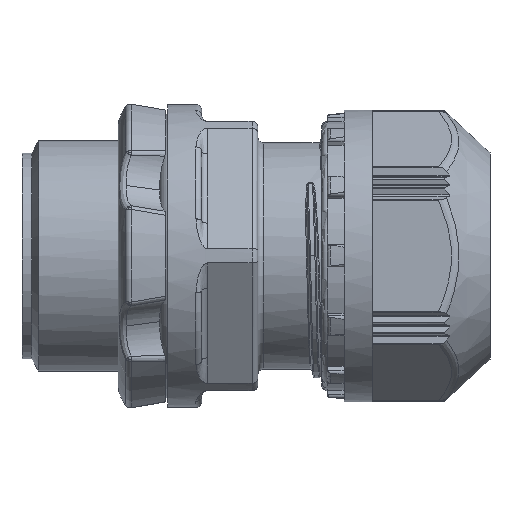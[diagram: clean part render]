
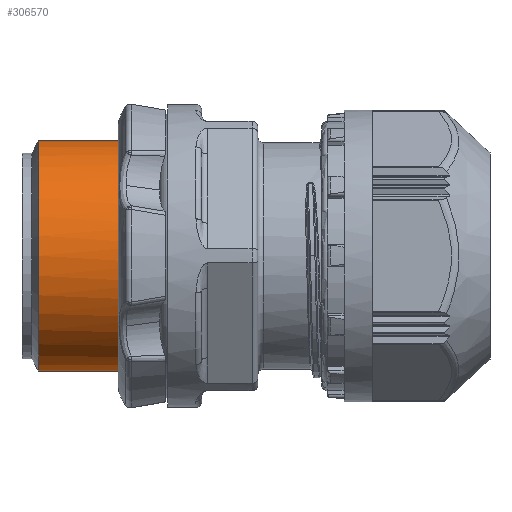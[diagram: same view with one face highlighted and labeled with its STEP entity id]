
A CAD part, top view. The second image highlights one B-rep face of the part: STEP entity #306570.
In plain terms, the highlighted cylindrical face has radius 10.3 mm (diameter 20.6 mm), a partial arc.
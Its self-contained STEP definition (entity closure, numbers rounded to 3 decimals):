
#196930=CARTESIAN_POINT('',(84.96,40.387,0.));
#196940=DIRECTION('',(1.,0.,0.));
#196950=DIRECTION('',(0.,-1.,0.));
#196960=AXIS2_PLACEMENT_3D('',#196930,#196940,#196950);
#196970=CIRCLE('',#196960,10.3);
#196980=CARTESIAN_POINT('',(84.96,30.087,0.));
#196990=VERTEX_POINT('',#196980);
#197000=CARTESIAN_POINT('',(84.96,50.687,
0.));
#197010=VERTEX_POINT('',#197000);
#197040=CARTESIAN_POINT('',(84.96,44.711,
9.348));
#197050=VERTEX_POINT('',#197040);
#197060=EDGE_CURVE('',#197050,#196990,#196970,.T.);
#197080=EDGE_CURVE('',#197010,#197050,#196970,.T.);
#281030=CARTESIAN_POINT('',(73.446,50.687,
0.));
#281040=VERTEX_POINT('',#281030);
#281070=CARTESIAN_POINT('',(73.446,40.387,0.));
#281080=DIRECTION('',(1.,0.,0.));
#281090=DIRECTION('',(0.,1.,0.));
#281100=AXIS2_PLACEMENT_3D('',#281070,#281080,#281090);
#281110=CIRCLE('',#281100,10.3);
#281120=CARTESIAN_POINT('',(73.446,30.087,0.));
#281130=VERTEX_POINT('',#281120);
#281140=EDGE_CURVE('',#281040,#281130,#281110,.T.);
#302170=CARTESIAN_POINT('',(79.203,40.387,0.));
#302180=DIRECTION('',(1.,0.,0.));
#302190=DIRECTION('',(0.,-1.,0.));
#302200=AXIS2_PLACEMENT_3D('',#302170,#302180,#302190);
#302210=CYLINDRICAL_SURFACE('',#302200,10.3);
#302220=CARTESIAN_POINT('',(79.203,30.087,0.));
#302230=DIRECTION('',(1.,0.,0.));
#302240=VECTOR('',#302230,1.);
#302250=LINE('',#302220,#302240);
#302260=EDGE_CURVE('',#281130,#196990,#302250,.T.);
#302290=CARTESIAN_POINT('',(79.203,50.687,
0.));
#302300=DIRECTION('',(1.,0.,0.));
#302310=VECTOR('',#302300,1.);
#302320=LINE('',#302290,#302310);
#302330=EDGE_CURVE('',#281040,#197010,#302320,.T.);
#306500=ORIENTED_EDGE('',*,*,#197060,.F.);
#306510=ORIENTED_EDGE('',*,*,#302260,.T.);
#306520=ORIENTED_EDGE('',*,*,#281140,.T.);
#306530=ORIENTED_EDGE('',*,*,#302330,.F.);
#306540=ORIENTED_EDGE('',*,*,#197080,.F.);
#306550=EDGE_LOOP('',(#306540,#306530,#306520,#306510,#306500));
#306560=FACE_OUTER_BOUND('',#306550,.T.);
#306570=ADVANCED_FACE('',(#306560),#302210,.T.);
